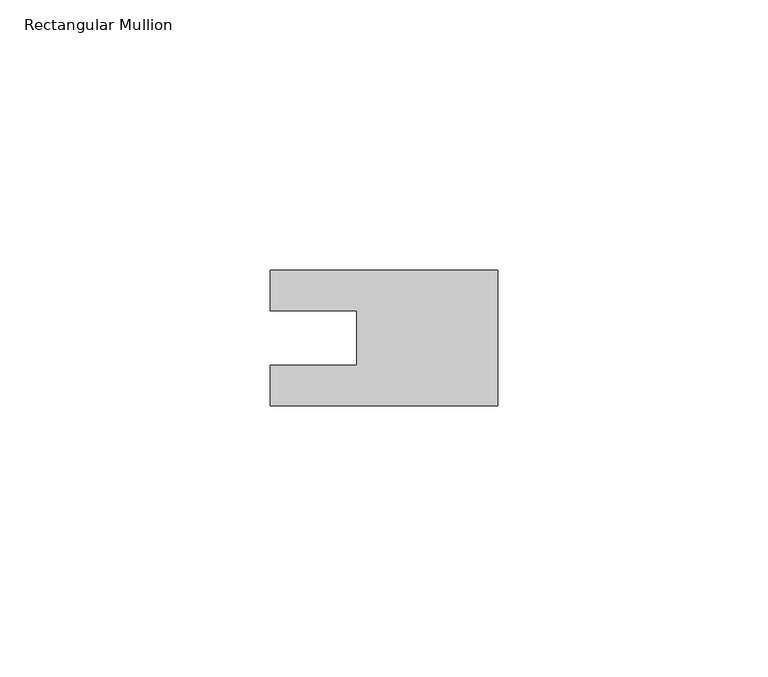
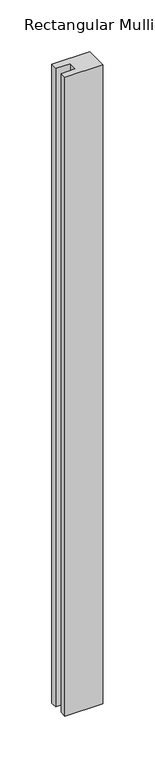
"""IFC4 building model written with IfcOpenShell, lengths in millimetres: member geometry, Rectangular Mullion : 22_IM_CF_DET2_onder_40mm."""

from ifc_helpers import new_model, si_unit, frame, origin, place, context, project, spatial, polyline, outline, extrude, source, transform, mapped, element, save


def rectangular_mullion_2450aa11(model_context):
    return source(origin(), model_context, "Body", "SweptSolid", [
        extrude(outline(polyline([(0.0, 12.5), (0.0, -12.5), (-42.0, -12.5), (-42.0, -5.0), (-26.0, -5.0), (-26.0, 5.0), (-42.0, 5.0), (-42.0, 12.5), (0.0, 12.5)])), frame((0.0, 0.0, -750.0), z_axis=(0.0, 0.0, 1.0), x_axis=(1.0, 0.0, 0.0)), (0.0, 0.0, 1.0), 750.0),
    ])


if __name__ == "__main__":
    model = new_model("IFC4")
    model_context = context("Model", 3, world=origin())
    ifc_project = project(units=[si_unit("LENGTHUNIT", "METRE", prefix="MILLI")], contexts=[model_context])
    site = spatial("IfcSite", under=ifc_project)
    building = spatial("IfcBuilding", under=site)
    placement = place(None, origin())
    rectangular_mullion_shape = rectangular_mullion_2450aa11(model_context)
    element("IfcMember", 1, ObjectType="Rectangular Mullion : 22_IM_CF_DET2_onder_40mm", at=placement, inside=building, context=model_context, shape_type="MappedRepresentation", body=[
        mapped(rectangular_mullion_shape, transform((0.0, 0.0, 0.0), x_axis=(1.0, 0.0, 0.0), y_axis=(0.0, 1.0, 0.0), z_axis=(0.0, 0.0, 1.0))),
    ])
    save(model, "model.ifc")
